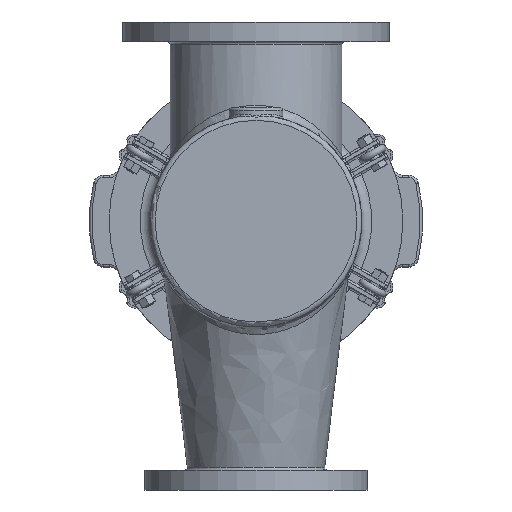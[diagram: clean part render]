
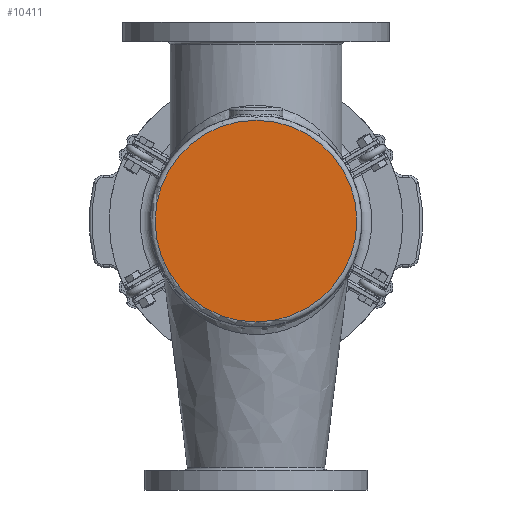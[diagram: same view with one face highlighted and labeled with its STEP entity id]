
A CAD part, front view. The second image highlights one B-rep face of the part: STEP entity #10411.
In plain terms, the highlighted planar face has unit normal (0, -1, 0).
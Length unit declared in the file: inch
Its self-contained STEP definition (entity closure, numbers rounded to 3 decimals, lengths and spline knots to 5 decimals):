
#1328=PLANE('',#11116);
#2220=FACE_OUTER_BOUND('',#2896,.T.);
#2896=EDGE_LOOP('',(#6932));
#3751=CIRCLE('',#11108,5.0625);
#4468=VERTEX_POINT('',#16080);
#5420=EDGE_CURVE('',#4468,#4468,#3751,.T.);
#6932=ORIENTED_EDGE('',*,*,#5420,.F.);
#10411=ADVANCED_FACE('',(#2220),#1328,.F.);
#11108=AXIS2_PLACEMENT_3D('',#16081,#12532,#12533);
#11116=AXIS2_PLACEMENT_3D('',#16092,#12548,#12549);
#12532=DIRECTION('center_axis',(0.,1.,0.));
#12533=DIRECTION('ref_axis',(1.,0.,0.));
#12548=DIRECTION('center_axis',(0.,1.,0.));
#12549=DIRECTION('ref_axis',(0.,0.,1.));
#16080=CARTESIAN_POINT('',(-5.0625,0.,0.));
#16081=CARTESIAN_POINT('Origin',(0.,0.,0.));
#16092=CARTESIAN_POINT('Origin',(0.,0.,0.));
